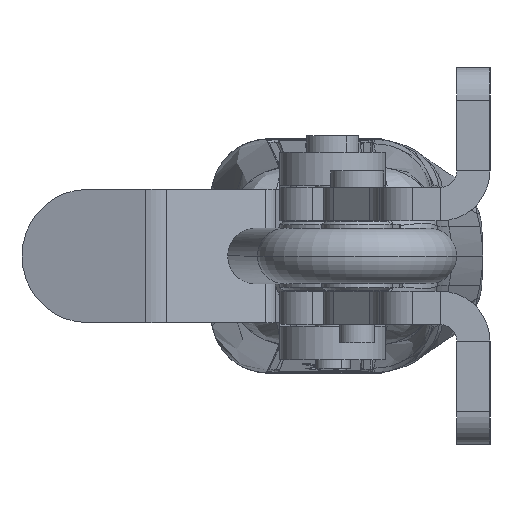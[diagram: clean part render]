
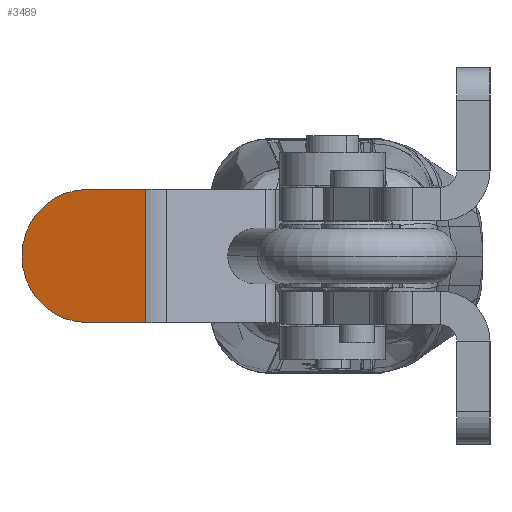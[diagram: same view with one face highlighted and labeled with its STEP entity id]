
A CAD part, left-side view. The second image highlights one B-rep face of the part: STEP entity #3489.
In plain terms, the highlighted planar face has unit normal (-0.97, 0.242, 0) as drawn and (0, 1, 0) by its records, which use the part's own axes.
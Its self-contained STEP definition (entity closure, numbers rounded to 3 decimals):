
#273 = VECTOR ( 'NONE', #27731, 1000. ) ;
#388 = EDGE_CURVE ( 'NONE', #27442, #27493, #8350, .T. ) ;
#945 = PLANE ( 'NONE',  #21475 ) ;
#2777 = ORIENTED_EDGE ( 'NONE', *, *, #15367, .T. ) ;
#3017 = CARTESIAN_POINT ( 'NONE',  ( -19.485, 8., 6. ) ) ;
#3287 = CIRCLE ( 'NONE', #16485, 6. ) ;
#3489 = ADVANCED_FACE ( 'NONE', ( #9074 ), #945, .F. ) ;
#4629 = CARTESIAN_POINT ( 'NONE',  ( -19.485, 8., -6. ) ) ;
#5112 = ORIENTED_EDGE ( 'NONE', *, *, #31978, .T. ) ;
#6408 = DIRECTION ( 'NONE',  ( 1., 0., 0. ) ) ;
#7235 = VECTOR ( 'NONE', #32126, 1000. ) ;
#7708 = ORIENTED_EDGE ( 'NONE', *, *, #33332, .F. ) ;
#8350 = LINE ( 'NONE', #16847, #273 ) ;
#9074 = FACE_OUTER_BOUND ( 'NONE', #30528, .T. ) ;
#9418 = VECTOR ( 'NONE', #13985, 1000. ) ;
#13985 = DIRECTION ( 'NONE',  ( 0., 0., -1. ) ) ;
#14403 = CARTESIAN_POINT ( 'NONE',  ( -25., 8., 0. ) ) ;
#15252 = CARTESIAN_POINT ( 'NONE',  ( -25., 8., 6. ) ) ;
#15367 = EDGE_CURVE ( 'NONE', #27493, #31387, #3287, .T. ) ;
#16485 = AXIS2_PLACEMENT_3D ( 'NONE', #14403, #33621, #17206 ) ;
#16847 = CARTESIAN_POINT ( 'NONE',  ( -19., 8., -6. ) ) ;
#17108 = CARTESIAN_POINT ( 'NONE',  ( -19., 8., 6. ) ) ;
#17206 = DIRECTION ( 'NONE',  ( 1., 0., 0. ) ) ;
#20103 = ORIENTED_EDGE ( 'NONE', *, *, #388, .T. ) ;
#21475 = AXIS2_PLACEMENT_3D ( 'NONE', #17108, #22854, #6408 ) ;
#22854 = DIRECTION ( 'NONE',  ( 0., -1., 0. ) ) ;
#23851 = CARTESIAN_POINT ( 'NONE',  ( -19., 8., 6. ) ) ;
#24041 = LINE ( 'NONE', #24562, #9418 ) ;
#24562 = CARTESIAN_POINT ( 'NONE',  ( -19.485, 8., 6. ) ) ;
#27208 = VERTEX_POINT ( 'NONE', #3017 ) ;
#27442 = VERTEX_POINT ( 'NONE', #4629 ) ;
#27493 = VERTEX_POINT ( 'NONE', #32189 ) ;
#27731 = DIRECTION ( 'NONE',  ( -1., 0., 0. ) ) ;
#29115 = LINE ( 'NONE', #23851, #7235 ) ;
#30528 = EDGE_LOOP ( 'NONE', ( #20103, #2777, #7708, #5112 ) ) ;
#31387 = VERTEX_POINT ( 'NONE', #15252 ) ;
#31978 = EDGE_CURVE ( 'NONE', #27208, #27442, #24041, .T. ) ;
#32126 = DIRECTION ( 'NONE',  ( -1., 0., 0. ) ) ;
#32189 = CARTESIAN_POINT ( 'NONE',  ( -25., 8., -6. ) ) ;
#33332 = EDGE_CURVE ( 'NONE', #27208, #31387, #29115, .T. ) ;
#33621 = DIRECTION ( 'NONE',  ( 0., 1., 0. ) ) ;
